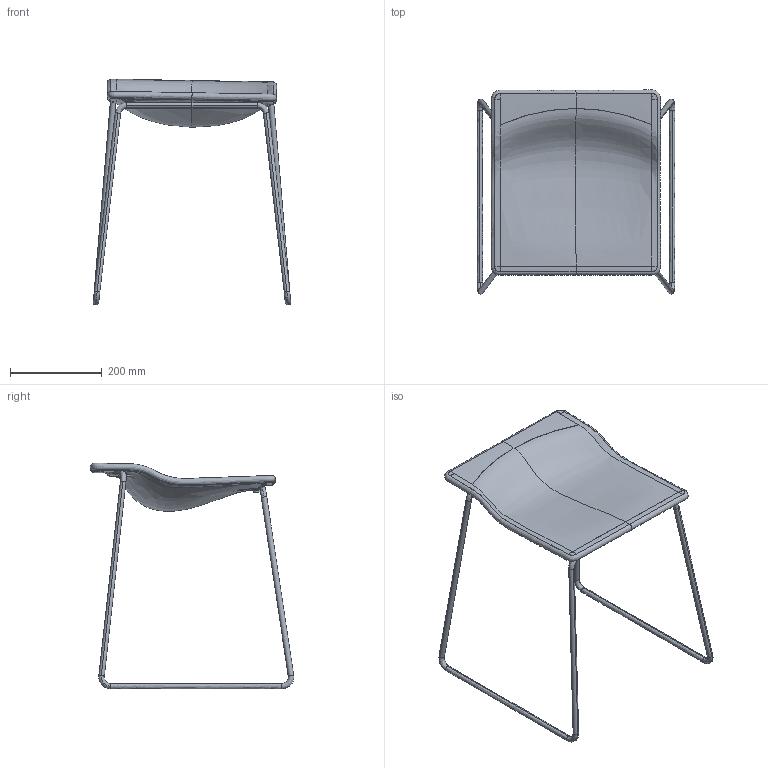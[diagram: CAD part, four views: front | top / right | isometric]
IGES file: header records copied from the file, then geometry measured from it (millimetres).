
Start section: SolidWorks IGES file using analytic representation for surfaces
Global section: file name: D:\VICCARBE\PRODUCTOS\FAMILIAS 2D - 3D (PRODUCTOS VICCARBE)\3D (IGES + STL + DWG)\01-LAST MINUTE\01-IGES\SILLA LMB_CHAIR LMB.IGS; native system: SolidWorks 2009; preprocessor: SolidWorks 2009; author: RUBEN; date: 100524.124218; units: millimetre
Bounding box: 432 x 445.12 x 493.23 mm (x, y, z)
Surface area: 480578.9 mm2 (no closed solid volume)
Topology: 0 solids, 0 shells, 582 faces, 8013 edges, 8005 vertices
Faces by surface type: bspline 538, revolution 44
